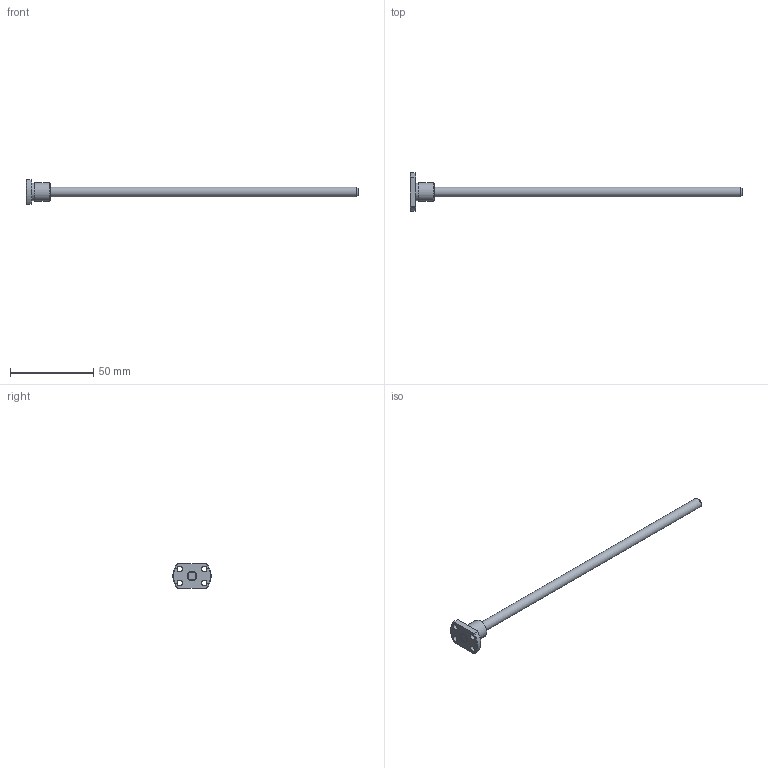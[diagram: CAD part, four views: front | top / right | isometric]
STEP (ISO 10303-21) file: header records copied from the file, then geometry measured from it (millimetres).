
FILE_DESCRIPTION( ( 'STEP AP203' ), '1' );
FILE_NAME( 'e:/temp/worker_93/temp/exporttempdir_3516_690_eIxxw/format_0/SR0601K-200R200C7(0).stp', '2021-10-19T03:49:54', ( 'License CC BY-ND 4.0' ), ( 'CADENAS' ), ' ', 'PARTsolutions', ' ' );
FILE_SCHEMA( ( 'CONFIG_CONTROL_DESIGN' ) );
Length unit declared in the file: millimetre
Products named in the file (3): SR0601K-200R200C7(0); _SR0601K_shaft; _SR0601K_nut
Assembly tree (2 placements, depth 2):
  SR0601K-200R200C7(0)
    _SR0601K_shaft
    _SR0601K_nut
Bounding box: 200 x 22.93 x 15 mm (x, y, z)
Volume: 7249.6 mm3; surface area: 5342.7 mm2
Topology: 2 solids, 2 shells, 25 faces, 54 edges, 35 vertices
Faces by surface type: cylinder 10, plane 8, cone 7
Full cylindrical faces by diameter (mm): 3.4 x4, 6 x2, 10.6 x1, 11 x1
Entity records: 772 total; most frequent: CARTESIAN_POINT 130, DIRECTION 118, ORIENTED_EDGE 86, AXIS2_PLACEMENT_3D 55, EDGE_LOOP 48, EDGE_CURVE 43, VERTEX_POINT 35, FACE_OUTER_BOUND 33
